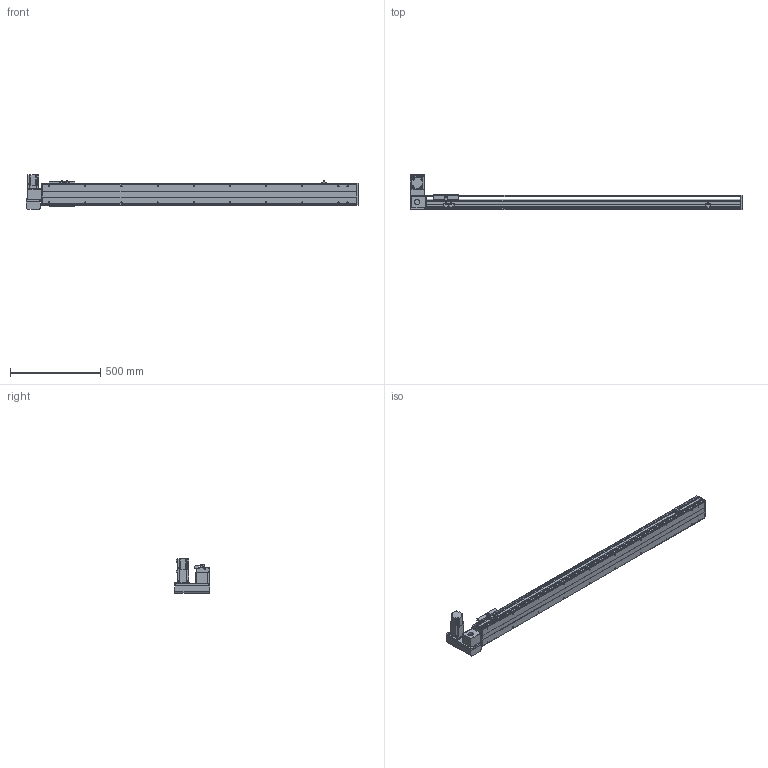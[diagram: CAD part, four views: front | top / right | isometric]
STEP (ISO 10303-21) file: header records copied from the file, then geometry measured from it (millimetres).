
FILE_DESCRIPTION( ( 'STEP AP214' ), '1' );
FILE_NAME( 'x:/temp/worker_27/temp/exporttempdir_6708_113_BR1aL/format_0/PBS120-P40-S1450-LU-T40-C1-N(0).stp', '2022-06-06T00:32:09', ( 'License CC BY-ND 4.0' ), ( 'CADENAS' ), ' ', 'PARTsolutions', ' ' );
FILE_SCHEMA( ( 'AUTOMOTIVE_DESIGN { 1 0 10303 214 1 1 1 1 }' ) );
Length unit declared in the file: millimetre
Products named in the file (7): PBS120-P40-S1450-LU-T40-C1-N(0); _PBS120-S1450()_body; _PBS120T-LU_motors; _T40-p1; _PBS120_sliser; _PBS120_plant; _PBS120_sensor
Assembly tree (8 placements, depth 2):
  PBS120-P40-S1450-LU-T40-C1-N(0)
    _PBS120-S1450()_body
    _PBS120T-LU_motors
    _T40-p1
    _PBS120_sliser
    _PBS120_plant
    _PBS120_sensor  x3
Bounding box: 1836 x 198 x 189.7 mm (x, y, z)
Volume: 7425813 mm3; surface area: 1487076.9 mm2
Topology: 8 solids, 8 shells, 840 faces, 2176 edges, 1399 vertices
Faces by surface type: plane 553, cylinder 233, cone 52, torus 2
Full cylindrical faces by diameter (mm): 2.459 x6, 3.242 x4, 4 x2, 4.134 x4, 4.5 x10, 4.917 x24, 5.5 x11, 6 x2, 6.6 x1, 7 x2, 8.5 x4, 9 x4, 12 x1, 14 x1, 30 x2, 40 x1, 50 x2
Entity records: 27660 total; most frequent: DIRECTION 3788, CARTESIAN_POINT 3713, ORIENTED_EDGE 3526, EDGE_CURVE 1763, AXIS2_PLACEMENT_3D 1280, LINE 1228, VECTOR 1228, VERTEX_POINT 1205
